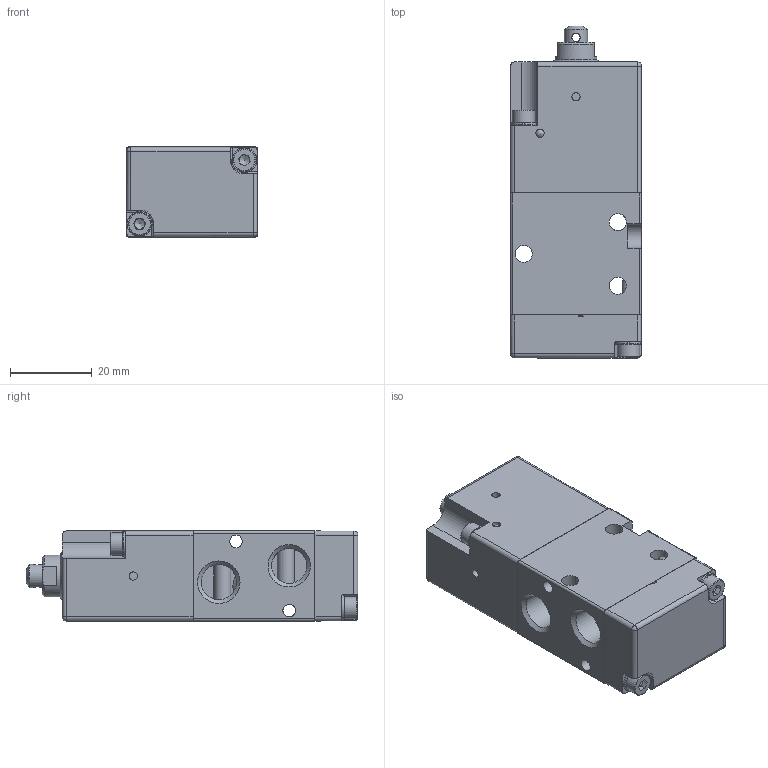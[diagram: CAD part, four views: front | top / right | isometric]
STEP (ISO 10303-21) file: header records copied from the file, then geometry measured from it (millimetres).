
FILE_DESCRIPTION (( 'STEP AP214' ), '1' );
FILE_NAME ('01VV03NC02A.STEP', '2013-09-18T06:29:32', ( 'ST01' ), ( '' ), 'SwSTEP 2.0', 'SolidWorks 2012', '' );
FILE_SCHEMA (( 'AUTOMOTIVE_DESIGN' ));
Length unit declared in the file: millimetre
Products named in the file (1): 01VV03NC02A
Bounding box: 32 x 81.1 x 22 mm (x, y, z)
Surface area: 12947.5 mm2 (no closed solid volume)
Topology: 0 solids, 17 shells, 202 faces, 628 edges, 413 vertices
Faces by surface type: plane 96, cylinder 70, cone 18, torus 13, sphere 5
Full cylindrical faces by diameter (mm): 2 x7, 2.5 x2, 3 x1, 3.1 x2, 4.2 x3, 5.5 x4, 5.7 x1, 6.4 x1, 8.566 x3, 10.2 x1, 11.9 x1
Entity records: 9556 total; most frequent: CARTESIAN_POINT 2135, DIRECTION 1070, ORIENTED_EDGE 930, EDGE_CURVE 562, VERTEX_POINT 398, AXIS2_PLACEMENT_3D 389, VECTOR 292, LINE 292
